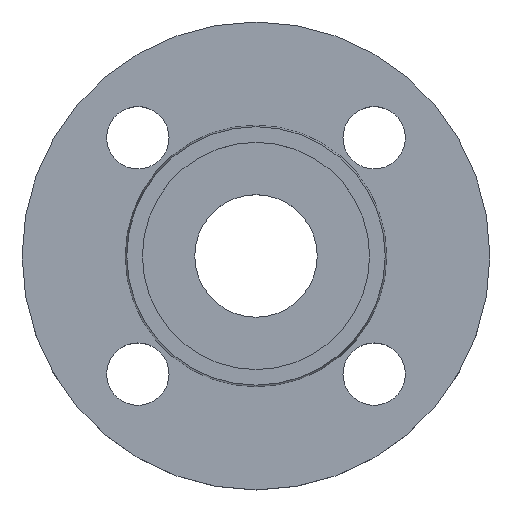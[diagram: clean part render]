
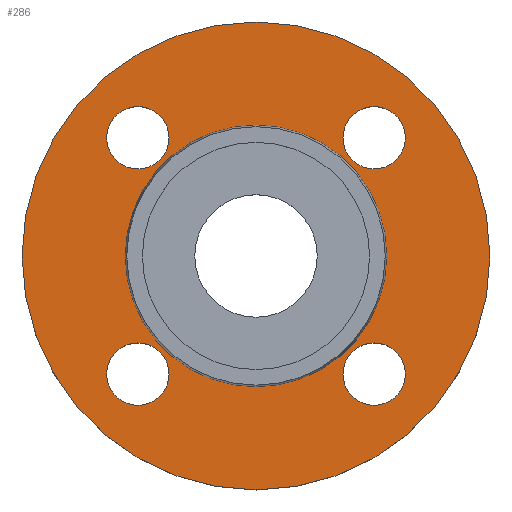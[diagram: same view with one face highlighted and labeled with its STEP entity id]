
A CAD part, top view. The second image highlights one B-rep face of the part: STEP entity #286.
In plain terms, the highlighted planar face has unit normal (0, 0, 1).
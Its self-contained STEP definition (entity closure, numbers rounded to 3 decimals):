
#2 = AXIS2_PLACEMENT_3D ( 'NONE', #186, #190, #188 ) ;
#4 = CIRCLE ( 'NONE', #2, 7. ) ;
#10 = CIRCLE ( 'NONE', #347, 7. ) ;
#12 = DIRECTION ( 'NONE',  ( -1., 0., 0. ) ) ;
#14 = CIRCLE ( 'NONE', #236, 7. ) ;
#15 = AXIS2_PLACEMENT_3D ( 'NONE', #185, #182, #187 ) ;
#23 = DIRECTION ( 'NONE',  ( 0., 0., -1. ) ) ;
#43 = DIRECTION ( 'NONE',  ( 1., 0., 0. ) ) ;
#44 = AXIS2_PLACEMENT_3D ( 'NONE', #509, #510, #511 ) ;
#62 = CARTESIAN_POINT ( 'NONE',  ( 26.517, 26.517, -2. ) ) ;
#67 = AXIS2_PLACEMENT_3D ( 'NONE', #159, #23, #12 ) ;
#91 = CIRCLE ( 'NONE', #169, 7. ) ;
#95 = CARTESIAN_POINT ( 'NONE',  ( -26.517, 26.517, -2. ) ) ;
#97 = DIRECTION ( 'NONE',  ( 0., 0., -1. ) ) ;
#98 = DIRECTION ( 'NONE',  ( 1., 0., 0. ) ) ;
#105 = CARTESIAN_POINT ( 'NONE',  ( -19.517, 26.517, -2. ) ) ;
#117 = CARTESIAN_POINT ( 'NONE',  ( 52.5, 0., -2. ) ) ;
#119 = EDGE_CURVE ( 'NONE', #412, #319, #14, .T. ) ;
#122 = CARTESIAN_POINT ( 'NONE',  ( 19.517, -26.517, -2. ) ) ;
#123 = CARTESIAN_POINT ( 'NONE',  ( -29.353, 0., -2. ) ) ;
#130 = EDGE_CURVE ( 'NONE', #429, #418, #314, .T. ) ;
#134 = CARTESIAN_POINT ( 'NONE',  ( 29.353, 0., -2. ) ) ;
#136 = CARTESIAN_POINT ( 'NONE',  ( 33.517, 26.517, -2. ) ) ;
#142 = CARTESIAN_POINT ( 'NONE',  ( -52.5, 0., -2. ) ) ;
#143 = CARTESIAN_POINT ( 'NONE',  ( 0., 0., -2. ) ) ;
#144 = DIRECTION ( 'NONE',  ( 0., 0., -1. ) ) ;
#145 = DIRECTION ( 'NONE',  ( -1., 0., 0. ) ) ;
#148 = CARTESIAN_POINT ( 'NONE',  ( -33.517, -26.517, -2. ) ) ;
#152 = CARTESIAN_POINT ( 'NONE',  ( -26.517, 26.517, -2. ) ) ;
#153 = EDGE_LOOP ( 'NONE', ( #366, #374 ) ) ;
#154 = DIRECTION ( 'NONE',  ( 0., 0., -1. ) ) ;
#155 = DIRECTION ( 'NONE',  ( 1., 0., 0. ) ) ;
#159 = CARTESIAN_POINT ( 'NONE',  ( 0., 0., -2. ) ) ;
#169 = AXIS2_PLACEMENT_3D ( 'NONE', #95, #97, #98 ) ;
#182 = DIRECTION ( 'NONE',  ( 0., 0., -1. ) ) ;
#185 = CARTESIAN_POINT ( 'NONE',  ( 0., 0., -2. ) ) ;
#186 = CARTESIAN_POINT ( 'NONE',  ( -26.517, -26.517, -2. ) ) ;
#187 = DIRECTION ( 'NONE',  ( -1., 0., 0. ) ) ;
#188 = DIRECTION ( 'NONE',  ( 1., 0., 0. ) ) ;
#190 = DIRECTION ( 'NONE',  ( 0., 0., -1. ) ) ;
#207 = DIRECTION ( 'NONE',  ( 1., 0., 0. ) ) ;
#236 = AXIS2_PLACEMENT_3D ( 'NONE', #506, #507, #508 ) ;
#244 = VERTEX_POINT ( 'NONE', #530 ) ;
#255 = VERTEX_POINT ( 'NONE', #532 ) ;
#256 = EDGE_CURVE ( 'NONE', #255, #477, #643, .T. ) ;
#286 = ADVANCED_FACE ( 'NONE', ( #545, #546, #551, #552, #553, #554 ), #555, .T. ) ;
#287 = CIRCLE ( 'NONE', #67, 29.353 ) ;
#293 = CIRCLE ( 'NONE', #379, 7. ) ;
#314 = CIRCLE ( 'NONE', #44, 29.353 ) ;
#318 = EDGE_LOOP ( 'NONE', ( #386, #390 ) ) ;
#319 = VERTEX_POINT ( 'NONE', #624 ) ;
#325 = AXIS2_PLACEMENT_3D ( 'NONE', #143, #144, #145 ) ;
#327 = AXIS2_PLACEMENT_3D ( 'NONE', #533, #535, #536 ) ;
#338 = CARTESIAN_POINT ( 'NONE',  ( 26.517, 26.517, -2. ) ) ;
#340 = VERTEX_POINT ( 'NONE', #606 ) ;
#347 = AXIS2_PLACEMENT_3D ( 'NONE', #62, #544, #43 ) ;
#358 = DIRECTION ( 'NONE',  ( 0., 0., -1. ) ) ;
#361 = AXIS2_PLACEMENT_3D ( 'NONE', #556, #557, #559 ) ;
#363 = EDGE_CURVE ( 'NONE', #434, #340, #10, .T. ) ;
#366 = ORIENTED_EDGE ( 'NONE', *, *, #631, .T. ) ;
#372 = ORIENTED_EDGE ( 'NONE', *, *, #582, .T. ) ;
#373 = ORIENTED_EDGE ( 'NONE', *, *, #256, .T. ) ;
#374 = ORIENTED_EDGE ( 'NONE', *, *, #119, .T. ) ;
#375 = ORIENTED_EDGE ( 'NONE', *, *, #363, .T. ) ;
#379 = AXIS2_PLACEMENT_3D ( 'NONE', #448, #450, #207 ) ;
#380 = ORIENTED_EDGE ( 'NONE', *, *, #387, .T. ) ;
#381 = ORIENTED_EDGE ( 'NONE', *, *, #479, .T. ) ;
#382 = ORIENTED_EDGE ( 'NONE', *, *, #130, .T. ) ;
#383 = ORIENTED_EDGE ( 'NONE', *, *, #491, .T. ) ;
#384 = ORIENTED_EDGE ( 'NONE', *, *, #625, .T. ) ;
#386 = ORIENTED_EDGE ( 'NONE', *, *, #575, .F. ) ;
#387 = EDGE_CURVE ( 'NONE', #244, #396, #91, .T. ) ;
#390 = ORIENTED_EDGE ( 'NONE', *, *, #463, .F. ) ;
#394 = CIRCLE ( 'NONE', #15, 52.5 ) ;
#396 = VERTEX_POINT ( 'NONE', #105 ) ;
#405 = VERTEX_POINT ( 'NONE', #117 ) ;
#407 = AXIS2_PLACEMENT_3D ( 'NONE', #152, #154, #155 ) ;
#412 = VERTEX_POINT ( 'NONE', #122 ) ;
#418 = VERTEX_POINT ( 'NONE', #123 ) ;
#427 = EDGE_LOOP ( 'NONE', ( #375, #384 ) ) ;
#429 = VERTEX_POINT ( 'NONE', #134 ) ;
#433 = EDGE_LOOP ( 'NONE', ( #383, #382 ) ) ;
#434 = VERTEX_POINT ( 'NONE', #136 ) ;
#437 = EDGE_LOOP ( 'NONE', ( #373, #372 ) ) ;
#448 = CARTESIAN_POINT ( 'NONE',  ( 26.517, -26.517, -2. ) ) ;
#450 = DIRECTION ( 'NONE',  ( 0., 0., -1. ) ) ;
#452 = DIRECTION ( 'NONE',  ( 1., 0., 0. ) ) ;
#459 = VERTEX_POINT ( 'NONE', #142 ) ;
#463 = EDGE_CURVE ( 'NONE', #459, #405, #498, .T. ) ;
#469 = CIRCLE ( 'NONE', #407, 7. ) ;
#477 = VERTEX_POINT ( 'NONE', #148 ) ;
#479 = EDGE_CURVE ( 'NONE', #396, #244, #469, .T. ) ;
#484 = EDGE_LOOP ( 'NONE', ( #381, #380 ) ) ;
#491 = EDGE_CURVE ( 'NONE', #418, #429, #287, .T. ) ;
#498 = CIRCLE ( 'NONE', #325, 52.5 ) ;
#506 = CARTESIAN_POINT ( 'NONE',  ( 26.517, -26.517, -2. ) ) ;
#507 = DIRECTION ( 'NONE',  ( 0., 0., -1. ) ) ;
#508 = DIRECTION ( 'NONE',  ( 1., 0., 0. ) ) ;
#509 = CARTESIAN_POINT ( 'NONE',  ( 0., 0., -2. ) ) ;
#510 = DIRECTION ( 'NONE',  ( 0., 0., -1. ) ) ;
#511 = DIRECTION ( 'NONE',  ( -1., 0., 0. ) ) ;
#530 = CARTESIAN_POINT ( 'NONE',  ( -33.517, 26.517, -2. ) ) ;
#532 = CARTESIAN_POINT ( 'NONE',  ( -19.517, -26.517, -2. ) ) ;
#533 = CARTESIAN_POINT ( 'NONE',  ( -26.517, -26.517, -2. ) ) ;
#535 = DIRECTION ( 'NONE',  ( 0., 0., -1. ) ) ;
#536 = DIRECTION ( 'NONE',  ( 1., 0., 0. ) ) ;
#544 = DIRECTION ( 'NONE',  ( 0., 0., -1. ) ) ;
#545 = FACE_BOUND ( 'NONE', #153, .T. ) ;
#546 = FACE_BOUND ( 'NONE', #437, .T. ) ;
#550 = CIRCLE ( 'NONE', #572, 7. ) ;
#551 = FACE_BOUND ( 'NONE', #484, .T. ) ;
#552 = FACE_BOUND ( 'NONE', #427, .T. ) ;
#553 = FACE_BOUND ( 'NONE', #433, .T. ) ;
#554 = FACE_OUTER_BOUND ( 'NONE', #318, .T. ) ;
#555 = PLANE ( 'NONE',  #361 ) ;
#556 = CARTESIAN_POINT ( 'NONE',  ( 29.353, 0., -2. ) ) ;
#557 = DIRECTION ( 'NONE',  ( 0., 0., 1. ) ) ;
#559 = DIRECTION ( 'NONE',  ( 1., 0., 0. ) ) ;
#572 = AXIS2_PLACEMENT_3D ( 'NONE', #338, #358, #452 ) ;
#575 = EDGE_CURVE ( 'NONE', #405, #459, #394, .T. ) ;
#582 = EDGE_CURVE ( 'NONE', #477, #255, #4, .T. ) ;
#606 = CARTESIAN_POINT ( 'NONE',  ( 19.517, 26.517, -2. ) ) ;
#624 = CARTESIAN_POINT ( 'NONE',  ( 33.517, -26.517, -2. ) ) ;
#625 = EDGE_CURVE ( 'NONE', #340, #434, #550, .T. ) ;
#631 = EDGE_CURVE ( 'NONE', #319, #412, #293, .T. ) ;
#643 = CIRCLE ( 'NONE', #327, 7. ) ;
